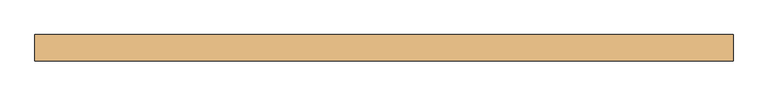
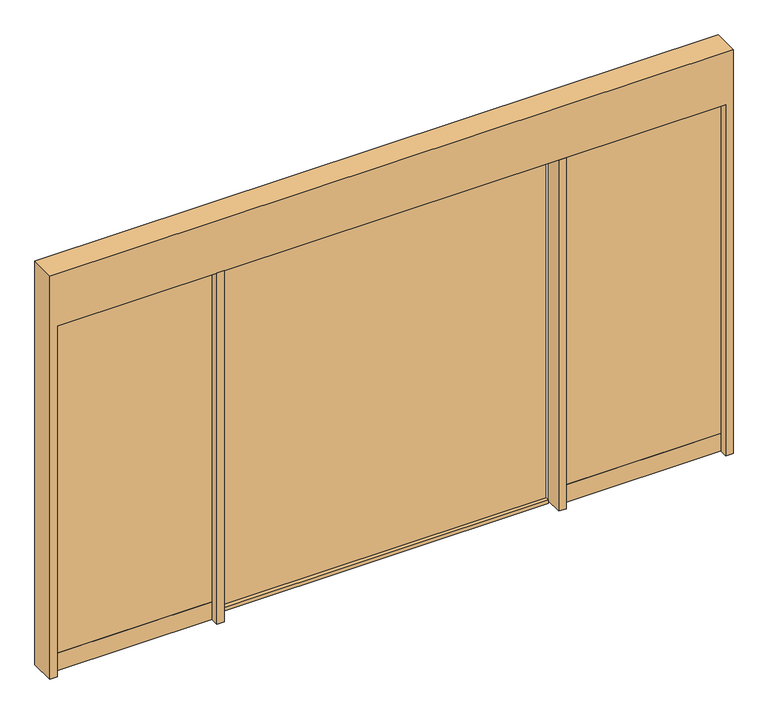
"""IFC4 building model written with IfcOpenShell, lengths in millimetres: door geometry, 営_自動ドア 両引き : SSD2 3600*2300."""

from ifc_helpers import new_model, si_unit, frame, origin, origin_with_axes, place, context, project, spatial, polyline, outline, extrude, source, transform, mapped, element, save


def door_71913196(model_context):
    return source(origin(), model_context, "Body", "SweptSolid", [
        extrude(outline(polyline([(-900.0, -80.0), (-940.0, -80.0), (-940.0, 15.0), (-900.0, 15.0), (-900.0, -80.0)])), origin_with_axes(), (0.0, 0.0, 1.0), 2000.0),
        extrude(outline(polyline([(940.0, -80.0), (900.0, -80.0), (900.0, 15.0), (940.0, 15.0), (940.0, -80.0)])), origin_with_axes(), (0.0, 0.0, 1.0), 2000.0),
        extrude(outline(polyline([(-1800.0, -30.5), (-940.0, -30.5), (-940.0, -34.5), (-1800.0, -34.5), (-1800.0, -30.5)])), origin_with_axes(), (0.0, 0.0, 1.0), 100.0),
        extrude(outline(polyline([(940.0, -30.5), (1800.0, -30.5), (1800.0, -34.5), (940.0, -34.5), (940.0, -30.5)])), origin_with_axes(), (0.0, 0.0, 1.0), 100.0),
        extrude(outline(polyline([(-1800.0, -30.5), (-940.0, -30.5), (-940.0, -34.5), (-1800.0, -34.5), (-1800.0, -30.5)])), frame((0.0, 0.0, 100.0), z_axis=(0.0, 0.0, 1.0), x_axis=(1.0, 0.0, 0.0)), (0.0, 0.0, 1.0), 1900.0),
        extrude(outline(polyline([(940.0, -30.5), (1800.0, -30.5), (1800.0, -34.5), (940.0, -34.5), (940.0, -30.5)])), frame((0.0, 0.0, 100.0), z_axis=(0.0, 0.0, 1.0), x_axis=(1.0, 0.0, 0.0)), (0.0, 0.0, 1.0), 1900.0),
        extrude(outline(polyline([(-900.0, 42.0), (900.0, 42.0), (900.0, 38.0), (-900.0, 38.0), (-900.0, 42.0)])), origin_with_axes(), (0.0, 0.0, 1.0), 2000.0),
        extrude(outline(polyline([(0.0, -1840.0), (0.0, -1800.0), (2000.0, -1800.0), (2000.0, 1800.0), (0.0, 1800.0), (0.0, 1840.0), (2300.0, 1840.0), (2300.0, -1840.0), (0.0, -1840.0)])), frame((0.0, -80.0, 0.0), z_axis=(0.0, 1.0, 0.0), x_axis=(0.0, 0.0, 1.0)), (0.0, 0.0, 1.0), 140.0),
        extrude(outline(polyline([(900.0, 60.0), (900.0, 15.0), (-900.0, 15.0), (-900.0, 60.0), (900.0, 60.0)])), frame((0.0, 0.0, -15.0), z_axis=(0.0, 0.0, 1.0), x_axis=(1.0, 0.0, 0.0)), (0.0, 0.0, 1.0), 20.0),
    ])


if __name__ == "__main__":
    model = new_model("IFC4")
    model_context = context("Model", 3, world=origin())
    ifc_project = project(units=[si_unit("LENGTHUNIT", "METRE", prefix="MILLI")], contexts=[model_context])
    site = spatial("IfcSite", under=ifc_project)
    building = spatial("IfcBuilding", under=site)
    placement = place(None, origin())
    door_shape = door_71913196(model_context)
    element("IfcDoor", 1, ObjectType="営_自動ドア 両引き : SSD2 3600*2300", at=placement, inside=building, context=model_context, shape_type="MappedRepresentation", body=[
        mapped(door_shape, transform((0.0, 0.0, 0.0), x_axis=(1.0, 0.0, 0.0), y_axis=(0.0, 1.0, 0.0), z_axis=(0.0, 0.0, 1.0))),
    ])
    save(model, "model.ifc")
